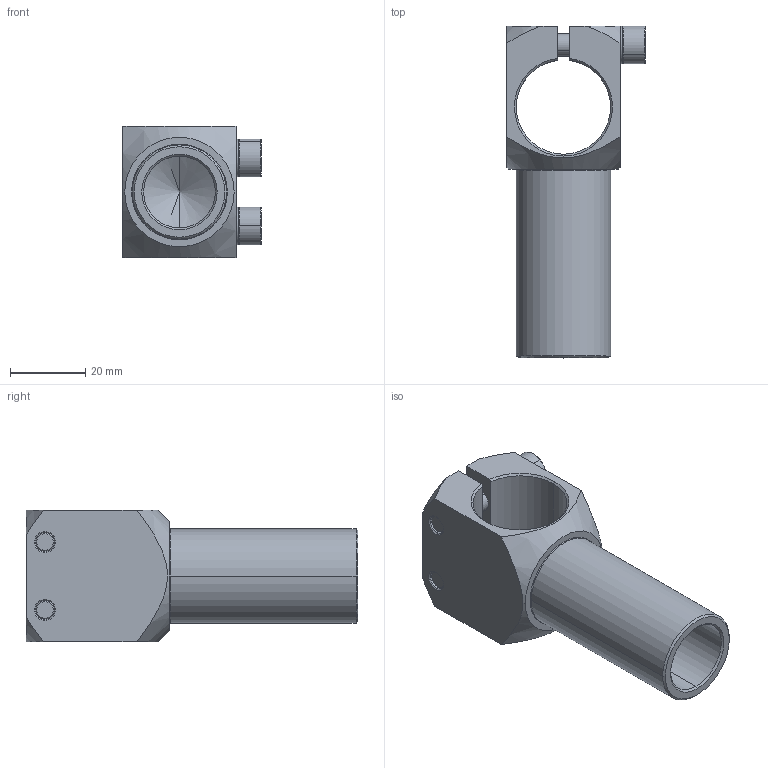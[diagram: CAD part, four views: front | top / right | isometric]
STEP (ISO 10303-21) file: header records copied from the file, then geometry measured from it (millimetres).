
FILE_DESCRIPTION (( 'STEP AP203' ), '1' );
FILE_NAME ('7.Y02030 SCA2-2525L50.STEP', '2024-01-23T09:37:27', ( '微软用户' ), ( '微软中国' ), 'SwSTEP 2.0', 'SolidWorks 2018', '' );
FILE_SCHEMA (( 'CONFIG_CONTROL_DESIGN' ));
Length unit declared in the file: millimetre
Products named in the file (4): 20.07.1.20001281; PTS-M6; PTC-M6L30; 7.Y02030 SCA2-2525L50
Assembly tree (5 placements, depth 2):
  7.Y02030 SCA2-2525L50
    20.07.1.20001281
    PTS-M6  x2
    PTC-M6L30  x2
Bounding box: 36.65 x 88 x 35 mm (x, y, z)
Volume: 33234.2 mm3; surface area: 18147.9 mm2
Topology: 5 solids, 5 shells, 497 faces, 1398 edges, 911 vertices
Faces by surface type: plane 426, cone 34, cylinder 31, torus 6
Entity records: 9436 total; most frequent: CARTESIAN_POINT 1704, DIRECTION 1576, ORIENTED_EDGE 1524, EDGE_CURVE 762, AXIS2_PLACEMENT_3D 549, VERTEX_POINT 495, VECTOR 478, LINE 478
